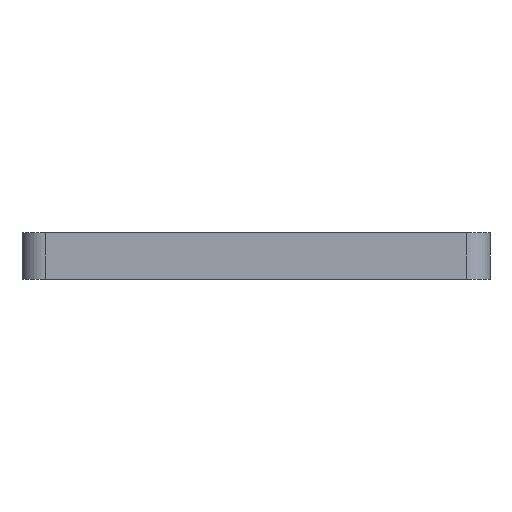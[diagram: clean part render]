
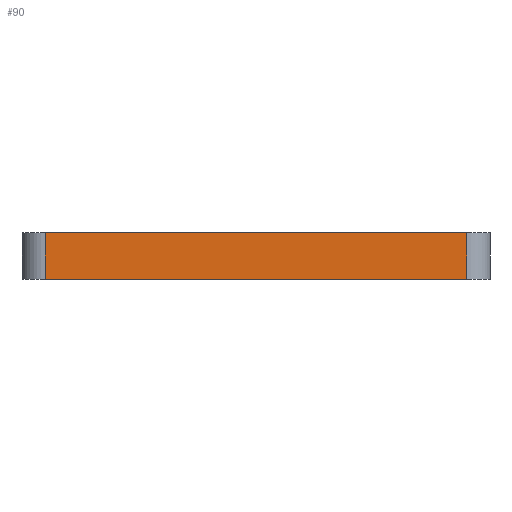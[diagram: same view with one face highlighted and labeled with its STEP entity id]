
A CAD part, left-side view. The second image highlights one B-rep face of the part: STEP entity #90.
In plain terms, the highlighted planar face has unit normal (-1, 0, 0).
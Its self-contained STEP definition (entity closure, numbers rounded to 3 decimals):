
#90=ADVANCED_FACE('23',(#196),#197,.T.);
#196=FACE_OUTER_BOUND('',#313,.T.);
#197=PLANE('',#314);
#313=EDGE_LOOP('',(#671,#672,#673,#674));
#314=AXIS2_PLACEMENT_3D('',#675,#676,#677);
#671=ORIENTED_EDGE('',*,*,#862,.F.);
#672=ORIENTED_EDGE('',*,*,#859,.T.);
#673=ORIENTED_EDGE('',*,*,#864,.F.);
#674=ORIENTED_EDGE('',*,*,#832,.T.);
#675=CARTESIAN_POINT('',(-62.5,15.0,0.0));
#676=DIRECTION('',(-1.0,0.0,0.0));
#677=DIRECTION('',(0.0,1.0,0.0));
#832=EDGE_CURVE('',#972,#970,#973,.T.);
#859=EDGE_CURVE('',#1019,#1017,#1020,.T.);
#862=EDGE_CURVE('',#1019,#970,#1023,.T.);
#864=EDGE_CURVE('',#972,#1017,#1025,.T.);
#970=VERTEX_POINT('',#1453);
#972=VERTEX_POINT('',#1455);
#973=LINE('',#1456,#1457);
#1017=VERTEX_POINT('',#1513);
#1019=VERTEX_POINT('',#1515);
#1020=LINE('',#1516,#1517);
#1023=LINE('',#1520,#1521);
#1025=LINE('',#1523,#1524);
#1453=CARTESIAN_POINT('',(-62.5,28.5,0.0));
#1455=CARTESIAN_POINT('',(-62.5,1.5,0.0));
#1456=CARTESIAN_POINT('',(-62.5,0.,0.0));
#1457=VECTOR('',#1602,1.0);
#1513=CARTESIAN_POINT('',(-62.5,1.5,-3.0));
#1515=CARTESIAN_POINT('',(-62.5,28.5,-3.0));
#1516=CARTESIAN_POINT('',(-62.5,0.,-3.0));
#1517=VECTOR('',#1645,1.0);
#1520=CARTESIAN_POINT('',(-62.5,28.5,0.0));
#1521=VECTOR('',#1649,1.0);
#1523=CARTESIAN_POINT('',(-62.5,1.5,0.0));
#1524=VECTOR('',#1650,1.0);
#1602=DIRECTION('',(0.0,1.0,0.0));
#1645=DIRECTION('',(-0.0,-1.0,-0.0));
#1649=DIRECTION('',(-0.0,-0.0,1.0));
#1650=DIRECTION('',(0.0,-0.0,-1.0));
